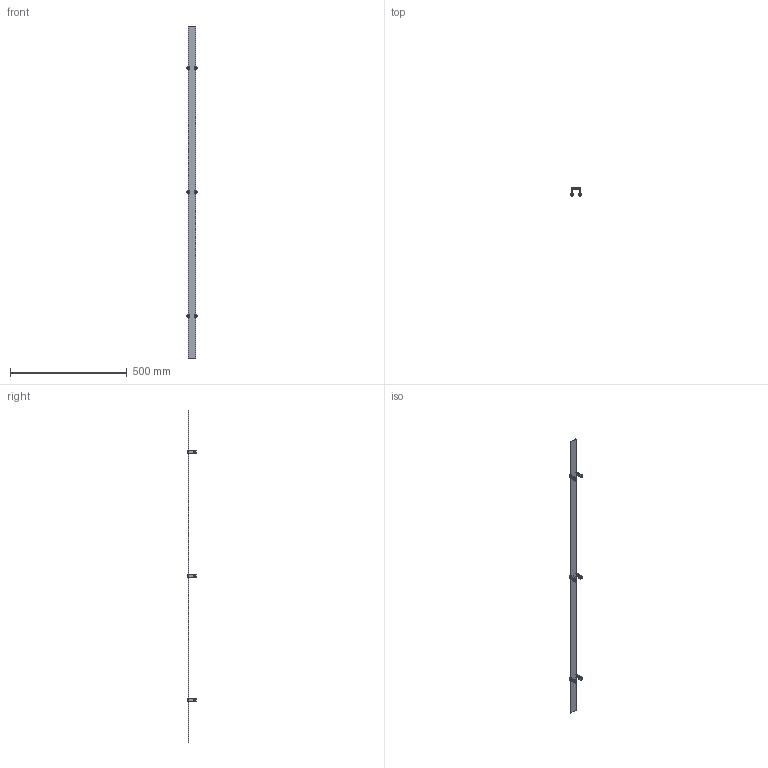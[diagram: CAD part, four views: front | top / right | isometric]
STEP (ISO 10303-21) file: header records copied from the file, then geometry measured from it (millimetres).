
FILE_DESCRIPTION((''),'2;1');
FILE_NAME('2011192_ASM','2012-09-05T',('rink'),(''),'PRO/ENGINEER BY PARAMETRIC TECHNOLOGY CORPORATION, 2011040','PRO/ENGINEER BY PARAMETRIC TECHNOLOGY CORPORATION, 2011040','');
FILE_SCHEMA(('AUTOMOTIVE_DESIGN_CC2 { 1 2 10303 214 -1 1 5 2 }'));
Length unit declared in the file: millimetre
Products named in the file (7): 2011191; 2011161; 2003292; 2011162; 2011167; 2011163_ASM; 2011192_ASM
Assembly tree (11 placements, depth 3):
  2011192_ASM
    2011191
    2011163_ASM  x6
      2011161
      2003292
      2011162
      2011167
Bounding box: 46.8 x 38 x 1422 mm (x, y, z)
Volume: 152899.7 mm3; surface area: 117559.4 mm2
Topology: 25 solids, 31 shells, 539 faces, 1365 edges, 938 vertices
Faces by surface type: plane 343, cylinder 124, cone 60, torus 12
Entity records: 5401 total; most frequent: CARTESIAN_POINT 753, DIRECTION 709, ORIENTED_EDGE 604, PRESENTATION_STYLE_ASSIGNMENT 366, STYLED_ITEM 335, CURVE_STYLE 329, EDGE_CURVE 304, VECTOR 237
